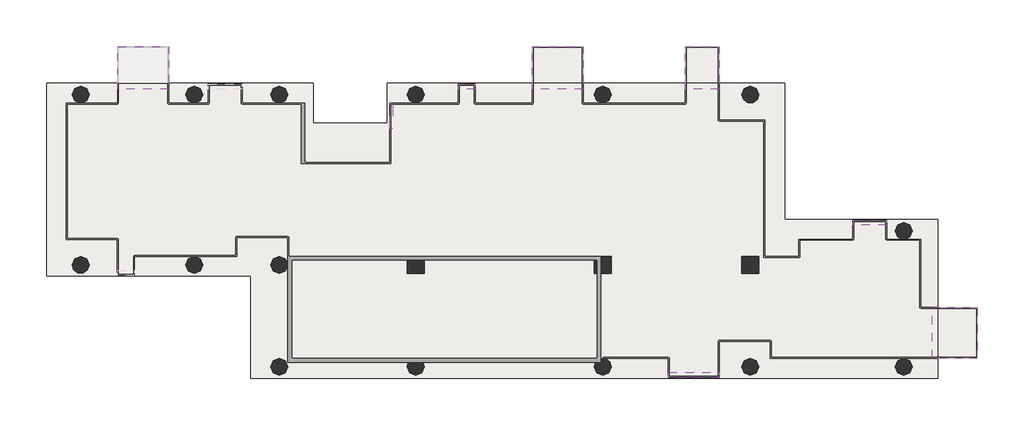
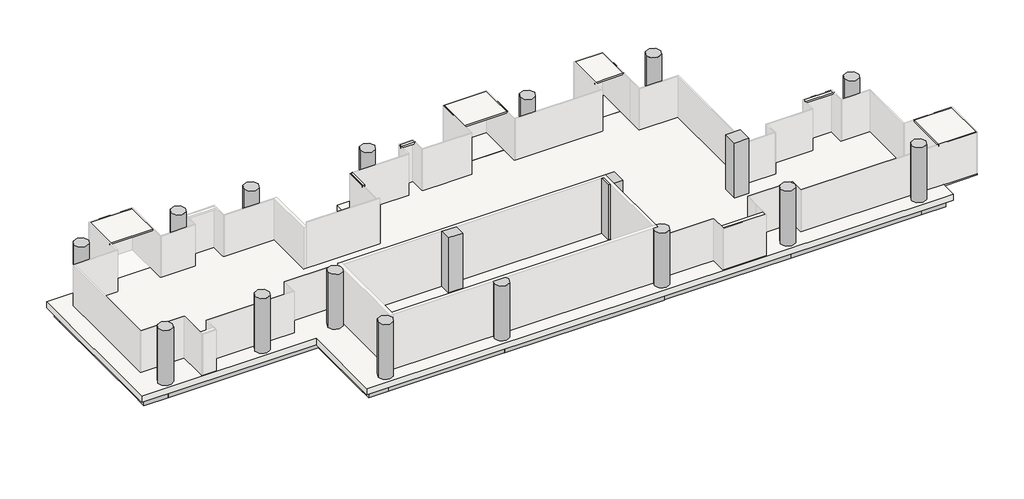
# One storey, part 2 of 2: 33 slabs, 25 beams, 18 columns.
"""IFC4 building model written with IfcOpenShell, lengths in millimetres."""

from ifc_helpers import new_model, si_unit, point, frame, frame_2d, origin, place, context, project, spatial, polyline, circle_curve, trimmed, segment, composite_curve, outline, extrude, transform, mapped, element, save
from ifc_brep_helpers import plane_surface, cylinder_surface, advanced_brep
from components import ajn_arc_ossature_rec_ba_700x600_5242ffbb, ajn_arc_ossature_rec_ba_700x600_213c05e2, ajn_arc_ossature_rec_ba_700x600_4d623bda, ajn_arc_ossature_rec_ba_700x600_c2a8f1af, ajn_arc_ossature_rec_ba_700x600_b2f97811, ajn_arc_ossature_rec_ba_700x600_e688680c, ajn_arc_ossature_rec_ba_700x600_8adee879, ajn_arc_ossature_rec_ba_700x600_6677e51c, ajn_arc_ossature_rec_ba_700x600_60e35d56, ajn_arc_ossature_rec_ba_700x600_9ae0f913, ajn_arc_ossature_rec_ba_700x600_5c14351b, ajn_arc_ossature_rec_ba_700x600_e883967f, ajn_arc_ossature_rec_ba_700x600_0984b03c, ajn_arc_ossature_rec_ba_700x600_78f846f2, ajn_arc_ossature_rec_ba_700x600_e869caa8, ajn_arc_ossature_rec_ba_700x600_0388eb48, ajn_arc_ossature_rec_ba_700x600_e143517c, ajn_arc_ossature_rec_ba_700x600_758f1bfa, ajn_arc_ossature_rec_ba_700x600_64ba80e1, ajn_arc_poteau_circulaire_dcd9d2f8

model = new_model("IFC4")

# Units and contexts
model_context = context("Model", 3, world=origin())
ifc_project = project(units=[si_unit("LENGTHUNIT", "METRE", prefix="MILLI")], contexts=[model_context])

# Site, building, storey
site = spatial("IfcSite", under=ifc_project)
building = spatial("IfcBuilding", under=site)
storey = spatial("IfcBuildingStorey", under=building, Name="TW-L 04", Elevation=13599.9999686)

# Beams
placement = place(None, origin())
ajn_arc_ossature_rec_ba_700x600_shape = ajn_arc_ossature_rec_ba_700x600_5242ffbb(model_context)
element("IfcBeam", 1, ObjectType="AJN-ARC-OSSATURE REC-BA : 700x600", at=placement, inside=storey, context=model_context, shape_type="MappedRepresentation", body=[
    mapped(ajn_arc_ossature_rec_ba_700x600_shape, transform((119350.0, 39300.0, 13049.9999686), x_axis=(-1.0, 0.0, 0.0), y_axis=(0.0, -1.0, 0.0), z_axis=(0.0, 0.0, 1.0))),
])
ajn_arc_ossature_rec_ba_700x600_2_shape = ajn_arc_ossature_rec_ba_700x600_213c05e2(model_context)
element("IfcBeam", 2, ObjectType="AJN-ARC-OSSATURE REC-BA : 700x600", at=placement, inside=storey, context=model_context, shape_type="MappedRepresentation", body=[
    mapped(ajn_arc_ossature_rec_ba_700x600_2_shape, transform((100900.0, 34800.0, 13049.9999686), x_axis=(0.0, -1.0, 0.0), y_axis=(1.0, 0.0, 0.0), z_axis=(0.0, 0.0, 1.0))),
])
ajn_arc_ossature_rec_ba_700x600_3_shape = ajn_arc_ossature_rec_ba_700x600_4d623bda(model_context)
element("IfcBeam", 3, ObjectType="AJN-ARC-OSSATURE REC-BA : 700x600", at=placement, inside=storey, context=model_context, shape_type="MappedRepresentation", body=[
    mapped(ajn_arc_ossature_rec_ba_700x600_3_shape, transform((112150.0, 24900.0, 13049.9999686), x_axis=(1.0, 0.0, 0.0), y_axis=(0.0, 1.0, 0.0), z_axis=(0.0, 0.0, 1.0))),
])
ajn_arc_ossature_rec_ba_700x600_4_shape = ajn_arc_ossature_rec_ba_700x600_c2a8f1af(model_context)
element("IfcBeam", 4, ObjectType="AJN-ARC-OSSATURE REC-BA : 700x600", at=placement, inside=storey, context=model_context, shape_type="MappedRepresentation", body=[
    mapped(ajn_arc_ossature_rec_ba_700x600_4_shape, transform((116200.0, 24900.0, 13049.9999686), x_axis=(1.0, 0.0, 0.0), y_axis=(0.0, 1.0, 0.0), z_axis=(0.0, 0.0, 1.0))),
])
ajn_arc_ossature_rec_ba_700x600_5_shape = ajn_arc_ossature_rec_ba_700x600_b2f97811(model_context)
element("IfcBeam", 5, ObjectType="AJN-ARC-OSSATURE REC-BA : 700x600", at=placement, inside=storey, context=model_context, shape_type="MappedRepresentation", body=[
    mapped(ajn_arc_ossature_rec_ba_700x600_5_shape, transform((106900.0, 30300.0, 13049.9999686), x_axis=(1.0, 0.0, 0.0), y_axis=(0.0, 1.0, 0.0), z_axis=(0.0, 0.0, 1.0))),
])
ajn_arc_ossature_rec_ba_700x600_6_shape = ajn_arc_ossature_rec_ba_700x600_e688680c(model_context)
element("IfcBeam", 6, ObjectType="AJN-ARC-OSSATURE REC-BA : 700x600", at=placement, inside=storey, context=model_context, shape_type="MappedRepresentation", body=[
    mapped(ajn_arc_ossature_rec_ba_700x600_6_shape, transform((111700.0, 27600.0, 13049.9999686), x_axis=(0.0, -1.0, 0.0), y_axis=(1.0, 0.0, 0.0), z_axis=(0.0, 0.0, 1.0))),
])
ajn_arc_ossature_rec_ba_700x600_7_shape = ajn_arc_ossature_rec_ba_700x600_8adee879(model_context)
element("IfcBeam", 7, ObjectType="AJN-ARC-OSSATURE REC-BA : 700x600", at=placement, inside=storey, context=model_context, shape_type="MappedRepresentation", body=[
    mapped(ajn_arc_ossature_rec_ba_700x600_7_shape, transform((124750.0, 24900.0, 13049.9999686), x_axis=(1.0, 0.0, 0.0), y_axis=(0.0, 1.0, 0.0), z_axis=(0.0, 0.0, 1.0))),
])
element("IfcBeam", 8, ObjectType="AJN-ARC-OSSATURE REC-BA : 700x600", at=placement, inside=storey, context=model_context, shape_type="MappedRepresentation", body=[
    mapped(ajn_arc_ossature_rec_ba_700x600_7_shape, transform((124750.0, 39300.0, 13049.9999686), x_axis=(-1.0, 0.0, 0.0), y_axis=(0.0, -1.0, 0.0), z_axis=(0.0, 0.0, 1.0))),
])
ajn_arc_ossature_rec_ba_700x600_8_shape = ajn_arc_ossature_rec_ba_700x600_6677e51c(model_context)
element("IfcBeam", 9, ObjectType="AJN-ARC-OSSATURE REC-BA : 700x600", at=placement, inside=storey, context=model_context, shape_type="MappedRepresentation", body=[
    mapped(ajn_arc_ossature_rec_ba_700x600_8_shape, transform((133600.0, 24900.0, 13049.9999686), x_axis=(1.0, 0.0, 0.0), y_axis=(0.0, 1.0, 0.0), z_axis=(0.0, 0.0, 1.0))),
])
ajn_arc_ossature_rec_ba_700x600_9_shape = ajn_arc_ossature_rec_ba_700x600_60e35d56(model_context)
element("IfcBeam", 10, ObjectType="AJN-ARC-OSSATURE REC-BA : 700x600", at=placement, inside=storey, context=model_context, shape_type="MappedRepresentation", body=[
    mapped(ajn_arc_ossature_rec_ba_700x600_9_shape, transform((141550.0, 24900.0, 13049.9999686), x_axis=(1.0, 0.0, 0.0), y_axis=(0.0, 1.0, 0.0), z_axis=(0.0, 0.0, 1.0))),
])
ajn_arc_ossature_rec_ba_700x600_10_shape = ajn_arc_ossature_rec_ba_700x600_9ae0f913(model_context)
element("IfcBeam", 11, ObjectType="AJN-ARC-OSSATURE REC-BA : 700x600", at=placement, inside=storey, context=model_context, shape_type="MappedRepresentation", body=[
    mapped(ajn_arc_ossature_rec_ba_700x600_10_shape, transform((146200.0, 24900.0, 13049.9999686), x_axis=(1.0, 0.0, 0.0), y_axis=(0.0, 1.0, 0.0), z_axis=(0.0, 0.0, 1.0))),
])
element("IfcBeam", 12, ObjectType="AJN-ARC-OSSATURE REC-BA : 700x600", at=placement, inside=storey, context=model_context, shape_type="MappedRepresentation", body=[
    mapped(ajn_arc_ossature_rec_ba_700x600_10_shape, transform((101500.0, 39300.0, 13049.9999686), x_axis=(-1.0, 0.0, 0.0), y_axis=(0.0, -1.0, 0.0), z_axis=(0.0, 0.0, 1.0))),
])
ajn_arc_ossature_rec_ba_700x600_11_shape = ajn_arc_ossature_rec_ba_700x600_5c14351b(model_context)
element("IfcBeam", 13, ObjectType="AJN-ARC-OSSATURE REC-BA : 700x600", at=placement, inside=storey, context=model_context, shape_type="MappedRepresentation", body=[
    mapped(ajn_arc_ossature_rec_ba_700x600_11_shape, transform((146800.0, 28500.0, 13049.9999686), x_axis=(0.0, 1.0, 0.0), y_axis=(-1.0, 0.0, 0.0), z_axis=(0.0, 0.0, 1.0))),
])
element("IfcBeam", 14, ObjectType="AJN-ARC-OSSATURE REC-BA : 700x600", at=placement, inside=storey, context=model_context, shape_type="MappedRepresentation", body=[
    mapped(ajn_arc_ossature_rec_ba_700x600_11_shape, transform((138700.0, 35700.0, 13049.9999686), x_axis=(0.0, 1.0, 0.0), y_axis=(-1.0, 0.0, 0.0), z_axis=(0.0, 0.0, 1.0))),
])
ajn_arc_ossature_rec_ba_700x600_12_shape = ajn_arc_ossature_rec_ba_700x600_e883967f(model_context)
element("IfcBeam", 15, ObjectType="AJN-ARC-OSSATURE REC-BA : 700x600", at=placement, inside=storey, context=model_context, shape_type="MappedRepresentation", body=[
    mapped(ajn_arc_ossature_rec_ba_700x600_12_shape, transform((146200.0, 32100.0, 13049.9999686), x_axis=(-1.0, 0.0, 0.0), y_axis=(0.0, -1.0, 0.0), z_axis=(0.0, 0.0, 1.0))),
])
element("IfcBeam", 16, ObjectType="AJN-ARC-OSSATURE REC-BA : 700x600", at=placement, inside=storey, context=model_context, shape_type="MappedRepresentation", body=[
    mapped(ajn_arc_ossature_rec_ba_700x600_12_shape, transform((138100.0, 39300.0, 13049.9999686), x_axis=(-1.0, 0.0, 0.0), y_axis=(0.0, -1.0, 0.0), z_axis=(0.0, 0.0, 1.0))),
])
element("IfcBeam", 17, ObjectType="AJN-ARC-OSSATURE REC-BA : 700x600", at=placement, inside=storey, context=model_context, shape_type="MappedRepresentation", body=[
    mapped(ajn_arc_ossature_rec_ba_700x600_12_shape, transform((113200.0, 39300.0, 13049.9999686), x_axis=(-1.0, 0.0, 0.0), y_axis=(0.0, -1.0, 0.0), z_axis=(0.0, 0.0, 1.0))),
])
element("IfcBeam", 18, ObjectType="AJN-ARC-OSSATURE REC-BA : 700x600", at=placement, inside=storey, context=model_context, shape_type="MappedRepresentation", body=[
    mapped(ajn_arc_ossature_rec_ba_700x600_12_shape, transform((101500.0, 30300.0, 13049.9999686), x_axis=(1.0, 0.0, 0.0), y_axis=(0.0, 1.0, 0.0), z_axis=(0.0, 0.0, 1.0))),
])
ajn_arc_ossature_rec_ba_700x600_13_shape = ajn_arc_ossature_rec_ba_700x600_0984b03c(model_context)
element("IfcBeam", 19, ObjectType="AJN-ARC-OSSATURE REC-BA : 700x600", at=placement, inside=storey, context=model_context, shape_type="MappedRepresentation", body=[
    mapped(ajn_arc_ossature_rec_ba_700x600_13_shape, transform((142150.0, 32100.0, 13049.9999686), x_axis=(-1.0, 0.0, 0.0), y_axis=(0.0, -1.0, 0.0), z_axis=(0.0, 0.0, 1.0))),
])
ajn_arc_ossature_rec_ba_700x600_14_shape = ajn_arc_ossature_rec_ba_700x600_78f846f2(model_context)
element("IfcBeam", 20, ObjectType="AJN-ARC-OSSATURE REC-BA : 700x600", at=placement, inside=storey, context=model_context, shape_type="MappedRepresentation", body=[
    mapped(ajn_arc_ossature_rec_ba_700x600_14_shape, transform((133600.0, 39300.0, 13049.9999686), x_axis=(-1.0, 0.0, 0.0), y_axis=(0.0, -1.0, 0.0), z_axis=(0.0, 0.0, 1.0))),
])
ajn_arc_ossature_rec_ba_700x600_15_shape = ajn_arc_ossature_rec_ba_700x600_e869caa8(model_context)
element("IfcBeam", 21, ObjectType="AJN-ARC-OSSATURE REC-BA : 700x600", at=placement, inside=storey, context=model_context, shape_type="MappedRepresentation", body=[
    mapped(ajn_arc_ossature_rec_ba_700x600_15_shape, transform((118900.0, 38250.0, 13049.9999686), x_axis=(0.0, -1.0, 0.0), y_axis=(1.0, 0.0, 0.0), z_axis=(0.0, 0.0, 1.0))),
])
ajn_arc_ossature_rec_ba_700x600_16_shape = ajn_arc_ossature_rec_ba_700x600_0388eb48(model_context)
element("IfcBeam", 22, ObjectType="AJN-ARC-OSSATURE REC-BA : 700x600", at=placement, inside=storey, context=model_context, shape_type="MappedRepresentation", body=[
    mapped(ajn_arc_ossature_rec_ba_700x600_16_shape, transform((110350.0, 39300.0, 13049.9999686), x_axis=(-1.0, 0.0, 0.0), y_axis=(0.0, -1.0, 0.0), z_axis=(0.0, 0.0, 1.0))),
])
ajn_arc_ossature_rec_ba_700x600_17_shape = ajn_arc_ossature_rec_ba_700x600_e143517c(model_context)
element("IfcBeam", 23, ObjectType="AJN-ARC-OSSATURE REC-BA : 700x600", at=placement, inside=storey, context=model_context, shape_type="MappedRepresentation", body=[
    mapped(ajn_arc_ossature_rec_ba_700x600_17_shape, transform((105100.0, 39300.0, 13049.9999686), x_axis=(-1.0, 0.0, 0.0), y_axis=(0.0, -1.0, 0.0), z_axis=(0.0, 0.0, 1.0))),
])
ajn_arc_ossature_rec_ba_700x600_18_shape = ajn_arc_ossature_rec_ba_700x600_758f1bfa(model_context)
element("IfcBeam", 24, ObjectType="AJN-ARC-OSSATURE REC-BA : 700x600", at=placement, inside=storey, context=model_context, shape_type="MappedRepresentation", body=[
    mapped(ajn_arc_ossature_rec_ba_700x600_18_shape, transform((116350.0, 37200.0, 13049.9999686), x_axis=(-1.0, 0.0, 0.0), y_axis=(0.0, -1.0, 0.0), z_axis=(0.0, 0.0, 1.0))),
])
ajn_arc_ossature_rec_ba_700x600_19_shape = ajn_arc_ossature_rec_ba_700x600_64ba80e1(model_context)
element("IfcBeam", 25, ObjectType="AJN-ARC-OSSATURE REC-BA : 700x600", at=placement, inside=storey, context=model_context, shape_type="MappedRepresentation", body=[
    mapped(ajn_arc_ossature_rec_ba_700x600_19_shape, transform((113800.0, 38250.0, 13049.9999686), x_axis=(0.0, 1.0, 0.0), y_axis=(-1.0, 0.0, 0.0), z_axis=(0.0, 0.0, 1.0))),
])

# Columns
element("IfcColumn", 26, ObjectType="AJN-ARC-POTEAU CIRCULAIRE : ø90", at=placement, inside=storey, context=model_context, shape_type="SweptSolid", body=[
    extrude(outline(composite_curve([segment(trimmed(circle_curve(frame_2d((102100.0, 39300.0)), 450.0), [point((101650.0, 39300.0))], [point((102550.0, 39300.0))], False, "CARTESIAN"), True, "CONTINUOUS"), segment(trimmed(circle_curve(frame_2d((102100.0, 39300.0)), 450.0), [point((102550.0, 39300.0))], [point((101650.0, 39300.0))], False, "CARTESIAN"), True, "CONTINUOUS")], self_intersect=False)), frame((0.0, 0.0, 13599.9999686), z_axis=(0.0, 0.0, 1.0), x_axis=(1.0, 0.0, 0.0)), (0.0, 0.0, 1.0), 3600.0),
])
element("IfcColumn", 27, ObjectType="AJN-ARC-POTEAU CIRCULAIRE : ø90", at=placement, inside=storey, context=model_context, shape_type="SweptSolid", body=[
    extrude(outline(composite_curve([segment(trimmed(circle_curve(frame_2d((108100.0, 30300.0)), 450.0), [point((107650.0, 30300.0))], [point((108550.0, 30300.0))], False, "CARTESIAN"), True, "CONTINUOUS"), segment(trimmed(circle_curve(frame_2d((108100.0, 30300.0)), 450.0), [point((108550.0, 30300.0))], [point((107650.0, 30300.0))], False, "CARTESIAN"), True, "CONTINUOUS")], self_intersect=False)), frame((0.0, 0.0, 13599.9999686), z_axis=(0.0, 0.0, 1.0), x_axis=(1.0, 0.0, 0.0)), (0.0, 0.0, 1.0), 3600.0),
])
element("IfcColumn", 28, ObjectType="AJN-ARC-POTEAU CIRCULAIRE : ø90", at=placement, inside=storey, context=model_context, shape_type="SweptSolid", body=[
    extrude(outline(composite_curve([segment(trimmed(circle_curve(frame_2d((108100.0, 39300.0)), 450.0), [point((107650.0, 39300.0))], [point((108550.0, 39300.0))], False, "CARTESIAN"), True, "CONTINUOUS"), segment(trimmed(circle_curve(frame_2d((108100.0, 39300.0)), 450.0), [point((108550.0, 39300.0))], [point((107650.0, 39300.0))], False, "CARTESIAN"), True, "CONTINUOUS")], self_intersect=False)), frame((0.0, 0.0, 13599.9999686), z_axis=(0.0, 0.0, 1.0), x_axis=(1.0, 0.0, 0.0)), (0.0, 0.0, 1.0), 3600.0),
])
element("IfcColumn", 29, ObjectType="AJN-ARC-POTEAU CIRCULAIRE : ø90", at=placement, inside=storey, context=model_context, shape_type="SweptSolid", body=[
    extrude(outline(composite_curve([segment(trimmed(circle_curve(frame_2d((112600.0, 39300.0)), 450.0), [point((112150.0, 39300.0))], [point((113050.0, 39300.0))], False, "CARTESIAN"), True, "CONTINUOUS"), segment(trimmed(circle_curve(frame_2d((112600.0, 39300.0)), 450.0), [point((113050.0, 39300.0))], [point((112150.0, 39300.0))], False, "CARTESIAN"), True, "CONTINUOUS")], self_intersect=False)), frame((0.0, 0.0, 13599.9999686), z_axis=(0.0, 0.0, 1.0), x_axis=(1.0, 0.0, 0.0)), (0.0, 0.0, 1.0), 3600.0),
])
element("IfcColumn", 30, ObjectType="AJN-ARC-POTEAU CIRCULAIRE : ø90", at=placement, inside=storey, context=model_context, shape_type="SweptSolid", body=[
    extrude(outline(composite_curve([segment(trimmed(circle_curve(frame_2d((112600.0, 30300.0)), 450.0), [point((112150.0, 30300.0))], [point((113050.0, 30300.0))], False, "CARTESIAN"), True, "CONTINUOUS"), segment(trimmed(circle_curve(frame_2d((112600.0, 30300.0)), 450.0), [point((113050.0, 30300.0))], [point((112150.0, 30300.0))], False, "CARTESIAN"), True, "CONTINUOUS")], self_intersect=False)), frame((0.0, 0.0, 13599.9999686), z_axis=(0.0, 0.0, 1.0), x_axis=(1.0, 0.0, 0.0)), (0.0, 0.0, 1.0), 3600.0),
])
element("IfcColumn", 31, ObjectType="AJN-ARC-POTEAU CIRCULAIRE : ø90", at=placement, inside=storey, context=model_context, shape_type="SweptSolid", body=[
    extrude(outline(composite_curve([segment(trimmed(circle_curve(frame_2d((112600.0, 24900.0)), 450.0), [point((112150.0, 24900.0))], [point((113050.0, 24900.0))], False, "CARTESIAN"), True, "CONTINUOUS"), segment(trimmed(circle_curve(frame_2d((112600.0, 24900.0)), 450.0), [point((113050.0, 24900.0))], [point((112150.0, 24900.0))], False, "CARTESIAN"), True, "CONTINUOUS")], self_intersect=False)), frame((0.0, 0.0, 13599.9999686), z_axis=(0.0, 0.0, 1.0), x_axis=(1.0, 0.0, 0.0)), (0.0, 0.0, 1.0), 3600.0),
])
element("IfcColumn", 32, ObjectType="AJN-ARC-POTEAU CIRCULAIRE : ø90", at=placement, inside=storey, context=model_context, shape_type="SweptSolid", body=[
    extrude(outline(composite_curve([segment(trimmed(circle_curve(frame_2d((119800.0, 24900.0)), 450.0), [point((120250.0, 24900.0))], [point((119350.0, 24900.0))], False, "CARTESIAN"), True, "CONTINUOUS"), segment(trimmed(circle_curve(frame_2d((119800.0, 24900.0)), 450.0), [point((119350.0, 24900.0))], [point((119425.8342613, 25150.0))], False, "CARTESIAN"), True, "CONTINUOUS"), segment(polyline([(119425.8342613, 25150.0), (120174.1657387, 25150.0)]), True, "CONTINUOUS"), segment(trimmed(circle_curve(frame_2d((119800.0, 24900.0)), 450.0), [point((120174.1657387, 25150.0))], [point((120250.0, 24900.0))], False, "CARTESIAN"), True, "CONTINUOUS")], self_intersect=False)), frame((0.0, 0.0, 13599.9999686), z_axis=(0.0, 0.0, 1.0), x_axis=(1.0, 0.0, 0.0)), (0.0, 0.0, 1.0), 3600.0),
])
element("IfcColumn", 33, ObjectType="AJN-ARC-POTEAU CIRCULAIRE : ø90", at=placement, inside=storey, context=model_context, shape_type="SweptSolid", body=[
    extrude(outline(composite_curve([segment(trimmed(circle_curve(frame_2d((119800.0, 39300.0)), 450.0), [point((119350.0, 39300.0))], [point((120250.0, 39300.0))], False, "CARTESIAN"), True, "CONTINUOUS"), segment(trimmed(circle_curve(frame_2d((119800.0, 39300.0)), 450.0), [point((120250.0, 39300.0))], [point((119350.0, 39300.0))], False, "CARTESIAN"), True, "CONTINUOUS")], self_intersect=False)), frame((0.0, 0.0, 13599.9999686), z_axis=(0.0, 0.0, 1.0), x_axis=(1.0, 0.0, 0.0)), (0.0, 0.0, 1.0), 3600.0),
])
element("IfcColumn", 34, ObjectType="AJN-ARC-POTEAU CIRCULAIRE : ø90", at=placement, inside=storey, context=model_context, shape_type="SweptSolid", body=[
    extrude(outline(composite_curve([segment(trimmed(circle_curve(frame_2d((129700.0, 39300.0)), 450.0), [point((129250.0, 39300.0))], [point((130150.0, 39300.0))], False, "CARTESIAN"), True, "CONTINUOUS"), segment(trimmed(circle_curve(frame_2d((129700.0, 39300.0)), 450.0), [point((130150.0, 39300.0))], [point((129250.0, 39300.0))], False, "CARTESIAN"), True, "CONTINUOUS")], self_intersect=False)), frame((0.0, 0.0, 13599.9999686), z_axis=(0.0, 0.0, 1.0), x_axis=(1.0, 0.0, 0.0)), (0.0, 0.0, 1.0), 3600.0),
])
element("IfcColumn", 35, ObjectType="AJN-ARC-POTEAU CIRCULAIRE : ø90", at=placement, inside=storey, context=model_context, shape_type="SweptSolid", body=[
    extrude(outline(composite_curve([segment(trimmed(circle_curve(frame_2d((129700.0, 24900.0)), 450.0), [point((130150.0, 24900.0))], [point((129250.0, 24900.0))], False, "CARTESIAN"), True, "CONTINUOUS"), segment(trimmed(circle_curve(frame_2d((129700.0, 24900.0)), 450.0), [point((129250.0, 24900.0))], [point((129325.8342613, 25150.0))], False, "CARTESIAN"), True, "CONTINUOUS"), segment(polyline([(129325.8342613, 25150.0), (129600.0, 25150.0), (129600.0, 25338.7482194)]), True, "CONTINUOUS"), segment(trimmed(circle_curve(frame_2d((129700.0, 24900.0)), 450.0), [point((129600.0, 25338.7482194))], [point((130150.0, 24900.0))], False, "CARTESIAN"), True, "CONTINUOUS")], self_intersect=False)), frame((0.0, 0.0, 13599.9999686), z_axis=(0.0, 0.0, 1.0), x_axis=(1.0, 0.0, 0.0)), (0.0, 0.0, 1.0), 3600.0),
])
element("IfcColumn", 36, ObjectType="AJN-ARC-POTEAU CIRCULAIRE : ø90", at=placement, inside=storey, context=model_context, shape_type="SweptSolid", body=[
    extrude(outline(composite_curve([segment(trimmed(circle_curve(frame_2d((137500.0, 24900.0)), 450.0), [point((137050.0, 24900.0))], [point((137950.0, 24900.0))], False, "CARTESIAN"), True, "CONTINUOUS"), segment(trimmed(circle_curve(frame_2d((137500.0, 24900.0)), 450.0), [point((137950.0, 24900.0))], [point((137050.0, 24900.0))], False, "CARTESIAN"), True, "CONTINUOUS")], self_intersect=False)), frame((0.0, 0.0, 13599.9999686), z_axis=(0.0, 0.0, 1.0), x_axis=(1.0, 0.0, 0.0)), (0.0, 0.0, 1.0), 3600.0),
])
element("IfcColumn", 37, ObjectType="AJN-ARC-POTEAU CIRCULAIRE : ø90", at=placement, inside=storey, context=model_context, shape_type="SweptSolid", body=[
    extrude(outline(composite_curve([segment(trimmed(circle_curve(frame_2d((145600.0, 24900.0)), 450.0), [point((145150.0, 24900.0))], [point((146050.0, 24900.0))], False, "CARTESIAN"), True, "CONTINUOUS"), segment(trimmed(circle_curve(frame_2d((145600.0, 24900.0)), 450.0), [point((146050.0, 24900.0))], [point((145150.0, 24900.0))], False, "CARTESIAN"), True, "CONTINUOUS")], self_intersect=False)), frame((0.0, 0.0, 13599.9999686), z_axis=(0.0, 0.0, 1.0), x_axis=(1.0, 0.0, 0.0)), (0.0, 0.0, 1.0), 3600.0),
])
element("IfcColumn", 38, ObjectType="AJN-ARC-POTEAU CIRCULAIRE : ø90", at=placement, inside=storey, context=model_context, shape_type="AdvancedBrep", body=[
    advanced_brep(
    [(145150.0, 32100.0, 13599.9999686), (146050.0, 32100.0, 13599.9999686), (145638.6089983, 31651.6593424, 13599.9999686), (145561.3910017, 31651.6593424, 13599.9999686), (145150.0, 32100.0, 17199.9999686), (146050.0, 32100.0, 17199.9999686), (145561.3910017, 31651.6593424, 16299.9999686), (145638.6089983, 31651.6593424, 16299.9999686)],
    [
        (0, 1, circle_curve(frame((145600.0, 32100.0, 13599.9999686), z_axis=(0.0, 0.0, -1.0), x_axis=(1.0, 0.0, 0.0)), 450.0)),
        (1, 2, circle_curve(frame((145600.0, 32100.0, 13599.9999686), z_axis=(0.0, 0.0, -1.0), x_axis=(1.0, 0.0, 0.0)), 450.0)),
        (2, 3),
        (3, 0, circle_curve(frame((145600.0, 32100.0, 13599.9999686), z_axis=(0.0, 0.0, -1.0), x_axis=(1.0, 0.0, 0.0)), 450.0)),
        (0, 4),
        (4, 5, circle_curve(frame((145600.0, 32100.0, 17199.9999686), z_axis=(0.0, 0.0, -1.0), x_axis=(1.0, 0.0, 0.0)), 450.0)),
        (5, 1),
        (5, 4, circle_curve(frame((145600.0, 32100.0, 17199.9999686), z_axis=(0.0, 0.0, -1.0), x_axis=(1.0, 0.0, 0.0)), 450.0)),
        (3, 6),
        (6, 7, circle_curve(frame((145600.0, 32100.0, 16299.9999686), z_axis=(0.0, 0.0, 1.0), x_axis=(1.0, 0.0, 0.0)), 450.0)),
        (7, 2),
        (7, 6),
    ],
    [
        plane_surface(frame((146050.0, 32100.0, 13599.9999686), z_axis=(0.0, 0.0, -1.0), x_axis=(0.0, -1.0, 0.0))),
        cylinder_surface(frame((145600.0, 32100.0, 13599.9999686), z_axis=(0.0, 0.0, 1.0), x_axis=(1.0, 0.0, 0.0)), 450.0),
        plane_surface(frame((146050.0, 32100.0, 17199.9999686), z_axis=(0.0, 0.0, 1.0), x_axis=(0.0, 1.0, 0.0))),
        plane_surface(frame((146472.681474, 31651.6593424, 13599.9999686), z_axis=(0.0, -1.0, 0.0), x_axis=(-1.0, 0.0, 0.0))),
        plane_surface(frame((144697.779898, 31651.6593424, 16299.9999686), z_axis=(0.0, 0.0, -1.0), x_axis=(0.0, -1.0, 0.0))),
    ],
    [
        (0, [[1, 2, 3, 4]]),
        (1, [[-1, 5, 6, 7]]),
        (1, [[-7, 8, -5, -4, 9, 10, 11, -2]]),
        (2, [[-6, -8]]),
        (3, [[12, -9, -3, -11]]),
        (4, [[-12, -10]]),
    ],
),
])
ajn_arc_poteau_circulaire_shape = ajn_arc_poteau_circulaire_dcd9d2f8(model_context)
element("IfcColumn", 39, ObjectType="AJN-ARC-POTEAU CIRCULAIRE : ø90", at=placement, inside=storey, context=model_context, shape_type="MappedRepresentation", body=[
    mapped(ajn_arc_poteau_circulaire_shape, transform((102100.0, 30300.0, 0.0), x_axis=(1.0, 0.0, 0.0), y_axis=(0.0, 1.0, 0.0), z_axis=(0.0, 0.0, 1.0))),
])
element("IfcColumn", 40, ObjectType="AJN-ARC-POTEAU CIRCULAIRE : ø90", at=placement, inside=storey, context=model_context, shape_type="MappedRepresentation", body=[
    mapped(ajn_arc_poteau_circulaire_shape, transform((137500.0, 39300.0, 0.0), x_axis=(1.0, 0.0, 0.0), y_axis=(0.0, 1.0, 0.0), z_axis=(0.0, 0.0, 1.0))),
])
element("IfcColumn", 41, ObjectType="AJN-ARC-POTEAU RECTANGULAIRE : 900 mm x 900 mm", at=placement, inside=storey, context=model_context, shape_type="SweptSolid", body=[
    extrude(outline(polyline([(137950.0, 30750.0), (137950.0, 29850.0), (137050.0, 29850.0), (137050.0, 30750.0), (137950.0, 30750.0)])), frame((0.0, 0.0, 13599.9999686), z_axis=(0.0, 0.0, 1.0), x_axis=(1.0, 0.0, 0.0)), (0.0, 0.0, 1.0), 3600.0),
])
element("IfcColumn", 42, ObjectType="AJN-ARC-POTEAU RECTANGULAIRE : 900 mm x 900 mm", at=placement, inside=storey, context=model_context, shape_type="SweptSolid", body=[
    extrude(outline(polyline([(129400.0, 29850.0), (129250.0, 29850.0), (129250.0, 30550.0), (129400.0, 30550.0), (129400.0, 29850.0)])), frame((0.0, 0.0, 13599.9999686), z_axis=(0.0, 0.0, 1.0), x_axis=(1.0, 0.0, 0.0)), (0.0, 0.0, 1.0), 3600.0),
    extrude(outline(polyline([(130150.0, 30750.0), (130150.0, 29850.0), (129600.0, 29850.0), (129600.0, 30750.0), (130150.0, 30750.0)])), frame((0.0, 0.0, 13599.9999686), z_axis=(0.0, 0.0, 1.0), x_axis=(1.0, 0.0, 0.0)), (0.0, 0.0, 1.0), 3600.0),
])
element("IfcColumn", 43, ObjectType="AJN-ARC-POTEAU RECTANGULAIRE : 900 mm x 900 mm", at=placement, inside=storey, context=model_context, shape_type="SweptSolid", body=[
    extrude(outline(polyline([(120250.0, 29850.0), (119350.0, 29850.0), (119350.0, 30550.0), (120250.0, 30550.0), (120250.0, 29850.0)])), frame((0.0, 0.0, 13599.9999686), z_axis=(0.0, 0.0, 1.0), x_axis=(1.0, 0.0, 0.0)), (0.0, 0.0, 1.0), 3600.0),
])

# Slabs
element("IfcSlab", 44, ObjectType="AJN-ARC-SLAB-10cm", at=placement, inside=storey, context=model_context, shape_type="SweptSolid", body=[
    extrude(outline(polyline([(149496.9011724, 28051.6697397), (149496.9011724, 25350.0), (147400.0, 25350.0), (147400.0, 28051.6697397), (149496.9011724, 28051.6697397)])), frame((0.0, 0.0, 13499.9999686), z_axis=(0.0, 0.0, 1.0), x_axis=(1.0, 0.0, 0.0)), (0.0, 0.0, 1.0), 100.0),
])
element("IfcSlab", 45, ObjectType="AJN-ARC-SLAB-10cm", at=placement, inside=storey, context=model_context, shape_type="SweptSolid", body=[
    extrude(outline(polyline([(128659.0442395, 39900.0), (125959.0442395, 39900.0), (125959.0442395, 41850.0), (128659.0442395, 41850.0), (128659.0442395, 39900.0)])), frame((0.0, 0.0, 13499.9999686), z_axis=(0.0, 0.0, 1.0), x_axis=(1.0, 0.0, 0.0)), (0.0, 0.0, 1.0), 100.0),
])
element("IfcSlab", 46, ObjectType="AJN-ARC-SLAB-10cm", at=placement, inside=storey, context=model_context, shape_type="SweptSolid", body=[
    extrude(outline(polyline([(135850.0, 39900.0), (134050.0, 39900.0), (134050.0, 41850.0), (135850.0, 41850.0), (135850.0, 39900.0)])), frame((0.0, 0.0, 13499.9999686), z_axis=(0.0, 0.0, 1.0), x_axis=(1.0, 0.0, 0.0)), (0.0, 0.0, 1.0), 100.0),
])
element("IfcSlab", 47, ObjectType="AJN-ARC-SLAB-10cm", at=placement, inside=storey, context=model_context, shape_type="SweptSolid", body=[
    extrude(outline(polyline([(106750.0, 39900.0), (104050.0, 39900.0), (104050.0, 41850.0), (106750.0, 41850.0), (106750.0, 39900.0)])), frame((0.0, 0.0, 13499.9999686), z_axis=(0.0, 0.0, 1.0), x_axis=(1.0, 0.0, 0.0)), (0.0, 0.0, 1.0), 100.0),
])
element("IfcSlab", 48, ObjectType="AJN-ARC-SLAB-10cm", at=placement, inside=storey, context=model_context, shape_type="SweptSolid", body=[
    extrude(outline(polyline([(106750.0, 39900.0), (104050.0, 39900.0), (104050.0, 41850.0), (106750.0, 41850.0), (106750.0, 39900.0)])), frame((0.0, 0.0, 13499.9999686), z_axis=(0.0, 0.0, 1.0), x_axis=(1.0, 0.0, 0.0)), (0.0, 0.0, 1.0), 100.0),
])
element("IfcSlab", 49, ObjectType="AJN-ARC-SLAB-10cm", at=placement, inside=storey, context=model_context, shape_type="SweptSolid", body=[
    extrude(outline(polyline([(106750.0, 39900.0), (104050.0, 39900.0), (104050.0, 41850.0), (106750.0, 41850.0), (106750.0, 39900.0)])), frame((0.0, 0.0, 13499.9999686), z_axis=(0.0, 0.0, 1.0), x_axis=(1.0, 0.0, 0.0)), (0.0, 0.0, 1.0), 100.0),
])
element("IfcSlab", 50, ObjectType="AJN-ARC-SLAB-10cm", at=placement, inside=storey, context=model_context, shape_type="SweptSolid", body=[
    extrude(outline(polyline([(106750.0, 39900.0), (104050.0, 39900.0), (104050.0, 41850.0), (106750.0, 41850.0), (106750.0, 39900.0)])), frame((0.0, 0.0, 13499.9999686), z_axis=(0.0, 0.0, 1.0), x_axis=(1.0, 0.0, 0.0)), (0.0, 0.0, 1.0), 100.0),
])
element("IfcSlab", 51, ObjectType="AJN-ARC-SLAB-10cm", at=placement, inside=storey, context=model_context, shape_type="SweptSolid", body=[
    extrude(outline(polyline([(106750.0, 39900.0), (104050.0, 39900.0), (104050.0, 41850.0), (106750.0, 41850.0), (106750.0, 39900.0)])), frame((0.0, 0.0, 13499.9999686), z_axis=(0.0, 0.0, 1.0), x_axis=(1.0, 0.0, 0.0)), (0.0, 0.0, 1.0), 100.0),
])
element("IfcSlab", 52, ObjectType="AJN-ARC-SLAB-10cm", at=placement, inside=storey, context=model_context, shape_type="SweptSolid", body=[
    extrude(outline(polyline([(106750.0, 39900.0), (104050.0, 39900.0), (104050.0, 41850.0), (106750.0, 41850.0), (106750.0, 39900.0)])), frame((0.0, 0.0, 13499.9999686), z_axis=(0.0, 0.0, 1.0), x_axis=(1.0, 0.0, 0.0)), (0.0, 0.0, 1.0), 100.0),
])
element("IfcSlab", 53, ObjectType="AJN-ARC-SLAB-10cm", at=placement, inside=storey, context=model_context, shape_type="SweptSolid", body=[
    extrude(outline(polyline([(106750.0, 39900.0), (104050.0, 39900.0), (104050.0, 41850.0), (106750.0, 41850.0), (106750.0, 39900.0)])), frame((0.0, 0.0, 13499.9999686), z_axis=(0.0, 0.0, 1.0), x_axis=(1.0, 0.0, 0.0)), (0.0, 0.0, 1.0), 100.0),
])
element("IfcSlab", 54, ObjectType="AJN-ARC-SLAB-10cm", at=placement, inside=storey, context=model_context, shape_type="SweptSolid", body=[
    extrude(outline(polyline([(106750.0, 39900.0), (104050.0, 39900.0), (104050.0, 41850.0), (106750.0, 41850.0), (106750.0, 39900.0)])), frame((0.0, 0.0, 13499.9999686), z_axis=(0.0, 0.0, 1.0), x_axis=(1.0, 0.0, 0.0)), (0.0, 0.0, 1.0), 100.0),
])
element("IfcSlab", 55, ObjectType="AJN-ARC-SLAB-10cm", at=placement, inside=storey, context=model_context, shape_type="SweptSolid", body=[
    extrude(outline(polyline([(106750.0, 39900.0), (104050.0, 39900.0), (104050.0, 41850.0), (106750.0, 41850.0), (106750.0, 39900.0)])), frame((0.0, 0.0, 13499.9999686), z_axis=(0.0, 0.0, 1.0), x_axis=(1.0, 0.0, 0.0)), (0.0, 0.0, 1.0), 100.0),
])
element("IfcSlab", 56, ObjectType="AJN-ARC-SLAB-10cm", at=placement, inside=storey, context=model_context, shape_type="SweptSolid", body=[
    extrude(outline(polyline([(106750.0, 39900.0), (104050.0, 39900.0), (104050.0, 41850.0), (106750.0, 41850.0), (106750.0, 39900.0)])), frame((0.0, 0.0, 13499.9999686), z_axis=(0.0, 0.0, 1.0), x_axis=(1.0, 0.0, 0.0)), (0.0, 0.0, 1.0), 100.0),
])
element("IfcSlab", 57, ObjectType="AJN-ARC-SLAB-10cm", at=placement, inside=storey, context=model_context, shape_type="SweptSolid", body=[
    extrude(outline(polyline([(106750.0, 39900.0), (104050.0, 39900.0), (104050.0, 41850.0), (106750.0, 41850.0), (106750.0, 39900.0)])), frame((0.0, 0.0, 13499.9999686), z_axis=(0.0, 0.0, 1.0), x_axis=(1.0, 0.0, 0.0)), (0.0, 0.0, 1.0), 100.0),
])
element("IfcSlab", 58, ObjectType="AJN-ARC-SLAB-10cm", at=placement, inside=storey, context=model_context, shape_type="SweptSolid", body=[
    extrude(outline(polyline([(106750.0, 39900.0), (104050.0, 39900.0), (104050.0, 41850.0), (106750.0, 41850.0), (106750.0, 39900.0)])), frame((0.0, 0.0, 13499.9999686), z_axis=(0.0, 0.0, 1.0), x_axis=(1.0, 0.0, 0.0)), (0.0, 0.0, 1.0), 100.0),
])
element("IfcSlab", 59, ObjectType="AJN-ARC-SLAB-10cm", at=placement, inside=storey, context=model_context, shape_type="SweptSolid", body=[
    extrude(outline(polyline([(135856.3136949, 24350.0), (133156.3136949, 24350.0), (133156.3136949, 24600.0), (135856.3136949, 24600.0), (135856.3136949, 24350.0)])), frame((0.0, 0.0, 16199.9999686), z_axis=(0.0, 0.0, 1.0), x_axis=(1.0, 0.0, 0.0)), (0.0, 0.0, 1.0), 100.0),
])
element("IfcSlab", 60, ObjectType="AJN-ARC-SLAB-10cm", at=placement, inside=storey, context=model_context, shape_type="SweptSolid", body=[
    extrude(outline(polyline([(106750.0, 39600.0), (104050.0, 39600.0), (104050.0, 41850.0), (106750.0, 41850.0), (106750.0, 39600.0)])), frame((0.0, 0.0, 16199.9999686), z_axis=(0.0, 0.0, 1.0), x_axis=(1.0, 0.0, 0.0)), (0.0, 0.0, 1.0), 100.0),
])
element("IfcSlab", 61, ObjectType="AJN-ARC-SLAB-10cm", at=placement, inside=storey, context=model_context, shape_type="SweptSolid", body=[
    extrude(outline(polyline([(144697.779898, 32400.0), (142897.779898, 32400.0), (142897.779898, 32651.6593424), (144697.779898, 32651.6593424), (144697.779898, 32400.0)])), frame((0.0, 0.0, 16199.9999686), z_axis=(0.0, 0.0, 1.0), x_axis=(1.0, 0.0, 0.0)), (0.0, 0.0, 1.0), 100.0),
])
element("IfcSlab", 62, ObjectType="AJN-ARC-SLAB-10cm", at=placement, inside=storey, context=model_context, shape_type="SweptSolid", body=[
    extrude(outline(polyline([(118600.0, 37500.0), (118450.0, 37500.0), (118450.0, 38850.0), (118600.0, 38850.0), (118600.0, 37500.0)])), frame((0.0, 0.0, 16199.9999686), z_axis=(0.0, 0.0, 1.0), x_axis=(1.0, 0.0, 0.0)), (0.0, 0.0, 1.0), 100.0),
])
element("IfcSlab", 63, ObjectType="AJN-ARC-SLAB-10cm", at=placement, inside=storey, context=model_context, shape_type="SweptSolid", body=[
    extrude(outline(polyline([(135850.0, 39600.0), (134050.0, 39600.0), (134050.0, 41850.0), (135850.0, 41850.0), (135850.0, 39600.0)])), frame((0.0, 0.0, 16199.9999686), z_axis=(0.0, 0.0, 1.0), x_axis=(1.0, 0.0, 0.0)), (0.0, 0.0, 1.0), 100.0),
])
element("IfcSlab", 64, ObjectType="AJN-ARC-SLAB-10cm", at=placement, inside=storey, context=model_context, shape_type="SweptSolid", body=[
    extrude(outline(polyline([(122950.0, 39600.0), (122050.0, 39600.0), (122050.0, 39850.0), (122950.0, 39850.0), (122950.0, 39600.0)])), frame((0.0, 0.0, 16199.9999686), z_axis=(0.0, 0.0, 1.0), x_axis=(1.0, 0.0, 0.0)), (0.0, 0.0, 1.0), 100.0),
])
element("IfcSlab", 65, ObjectType="AJN-ARC-SLAB-10cm", at=placement, inside=storey, context=model_context, shape_type="SweptSolid", body=[
    extrude(outline(polyline([(149496.9011724, 25350.0), (147100.0, 25350.0), (147100.0, 28051.6697397), (149496.9011724, 28051.6697397), (149496.9011724, 25350.0)])), frame((0.0, 0.0, 16199.9999686), z_axis=(0.0, 0.0, 1.0), x_axis=(1.0, 0.0, 0.0)), (0.0, 0.0, 1.0), 100.0),
])
element("IfcSlab", 66, ObjectType="AJN-ARC-SLAB-10cm", at=placement, inside=storey, context=model_context, shape_type="SweptSolid", body=[
    extrude(outline(polyline([(128659.0442395, 39600.0), (125959.0442395, 39600.0), (125959.0442395, 41850.0), (128659.0442395, 41850.0), (128659.0442395, 39600.0)])), frame((0.0, 0.0, 16199.9999686), z_axis=(0.0, 0.0, 1.0), x_axis=(1.0, 0.0, 0.0)), (0.0, 0.0, 1.0), 100.0),
])
element("IfcSlab", 67, ObjectType="AJN-ARC-SLAB-10cm", at=placement, inside=storey, context=model_context, shape_type="SweptSolid", body=[
    extrude(outline(polyline([(128659.0442395, 39600.0), (125959.0442395, 39600.0), (125959.0442395, 41850.0), (128659.0442395, 41850.0), (128659.0442395, 39600.0)])), frame((0.0, 0.0, 16199.9999686), z_axis=(0.0, 0.0, 1.0), x_axis=(1.0, 0.0, 0.0)), (0.0, 0.0, 1.0), 100.0),
])
element("IfcSlab", 68, ObjectType="AJN-ARC-SLAB-10cm", at=placement, inside=storey, context=model_context, shape_type="SweptSolid", body=[
    extrude(outline(polyline([(128659.0442395, 39600.0), (125959.0442395, 39600.0), (125959.0442395, 41850.0), (128659.0442395, 41850.0), (128659.0442395, 39600.0)])), frame((0.0, 0.0, 16199.9999686), z_axis=(0.0, 0.0, 1.0), x_axis=(1.0, 0.0, 0.0)), (0.0, 0.0, 1.0), 100.0),
])
element("IfcSlab", 69, ObjectType="AJN-ARC-SLAB-10cm", at=placement, inside=storey, context=model_context, shape_type="SweptSolid", body=[
    extrude(outline(polyline([(128659.0442395, 39600.0), (125959.0442395, 39600.0), (125959.0442395, 41850.0), (128659.0442395, 41850.0), (128659.0442395, 39600.0)])), frame((0.0, 0.0, 16199.9999686), z_axis=(0.0, 0.0, 1.0), x_axis=(1.0, 0.0, 0.0)), (0.0, 0.0, 1.0), 100.0),
])
element("IfcSlab", 70, ObjectType="AJN-ARC-SLAB-10cm", at=placement, inside=storey, context=model_context, shape_type="SweptSolid", body=[
    extrude(outline(polyline([(128659.0442395, 39600.0), (125959.0442395, 39600.0), (125959.0442395, 41850.0), (128659.0442395, 41850.0), (128659.0442395, 39600.0)])), frame((0.0, 0.0, 16199.9999686), z_axis=(0.0, 0.0, 1.0), x_axis=(1.0, 0.0, 0.0)), (0.0, 0.0, 1.0), 100.0),
])
element("IfcSlab", 71, ObjectType="AJN-ARC-SLAB-10cm", at=placement, inside=storey, context=model_context, shape_type="SweptSolid", body=[
    extrude(outline(polyline([(128659.0442395, 39600.0), (125959.0442395, 39600.0), (125959.0442395, 41850.0), (128659.0442395, 41850.0), (128659.0442395, 39600.0)])), frame((0.0, 0.0, 16199.9999686), z_axis=(0.0, 0.0, 1.0), x_axis=(1.0, 0.0, 0.0)), (0.0, 0.0, 1.0), 100.0),
])
element("IfcSlab", 72, ObjectType="AJN-ARC-SLAB-10cm", at=placement, inside=storey, context=model_context, shape_type="SweptSolid", body=[
    extrude(outline(polyline([(128659.0442395, 39600.0), (125959.0442395, 39600.0), (125959.0442395, 41850.0), (128659.0442395, 41850.0), (128659.0442395, 39600.0)])), frame((0.0, 0.0, 16199.9999686), z_axis=(0.0, 0.0, 1.0), x_axis=(1.0, 0.0, 0.0)), (0.0, 0.0, 1.0), 100.0),
])
element("IfcSlab", 73, ObjectType="AJN-ARC-SLAB-10cm", at=placement, inside=storey, context=model_context, shape_type="SweptSolid", body=[
    extrude(outline(polyline([(128659.0442395, 39600.0), (125959.0442395, 39600.0), (125959.0442395, 41850.0), (128659.0442395, 41850.0), (128659.0442395, 39600.0)])), frame((0.0, 0.0, 16199.9999686), z_axis=(0.0, 0.0, 1.0), x_axis=(1.0, 0.0, 0.0)), (0.0, 0.0, 1.0), 100.0),
])
element("IfcSlab", 74, ObjectType="AJN-ARC-SLAB-10cm", at=placement, inside=storey, context=model_context, shape_type="SweptSolid", body=[
    extrude(outline(polyline([(128659.0442395, 39600.0), (125959.0442395, 39600.0), (125959.0442395, 41850.0), (128659.0442395, 41850.0), (128659.0442395, 39600.0)])), frame((0.0, 0.0, 16199.9999686), z_axis=(0.0, 0.0, 1.0), x_axis=(1.0, 0.0, 0.0)), (0.0, 0.0, 1.0), 100.0),
])
element("IfcSlab", 75, ObjectType="AJN-ARC-SLAB-10cm", at=placement, inside=storey, context=model_context, shape_type="SweptSolid", body=[
    extrude(outline(polyline([(128659.0442395, 39600.0), (125959.0442395, 39600.0), (125959.0442395, 41850.0), (128659.0442395, 41850.0), (128659.0442395, 39600.0)])), frame((0.0, 0.0, 16199.9999686), z_axis=(0.0, 0.0, 1.0), x_axis=(1.0, 0.0, 0.0)), (0.0, 0.0, 1.0), 100.0),
])
element("IfcSlab", 76, ObjectType="AJN-ARC-SLAB-40cm", at=placement, inside=storey, context=model_context, shape_type="SweptSolid", body=[
    extrude(outline(polyline([(147400.0, 24300.0), (111100.0, 24300.0), (111100.0, 29700.0), (100300.0, 29700.0), (100300.0, 39900.0), (114400.0, 39900.0), (114400.0, 37800.0), (118300.0, 37800.0), (118300.0, 39900.0), (139300.0, 39900.0), (139300.0, 32700.0), (147400.0, 32700.0), (147400.0, 24300.0)])), frame((0.0, 0.0, 13199.9999686), z_axis=(0.0, 0.0, 1.0), x_axis=(1.0, 0.0, 0.0)), (0.0, 0.0, 1.0), 400.0),
])

save(model, "model.ifc")
